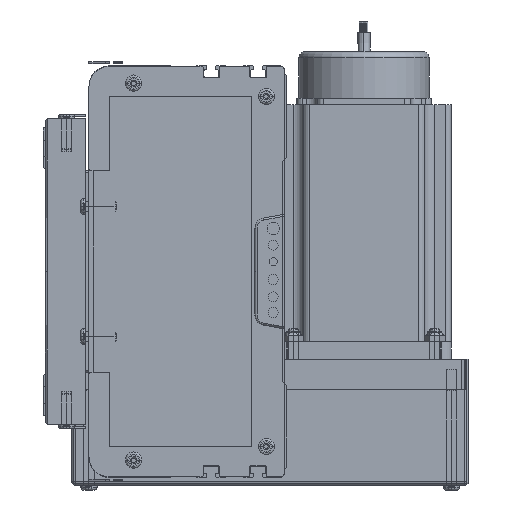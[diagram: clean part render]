
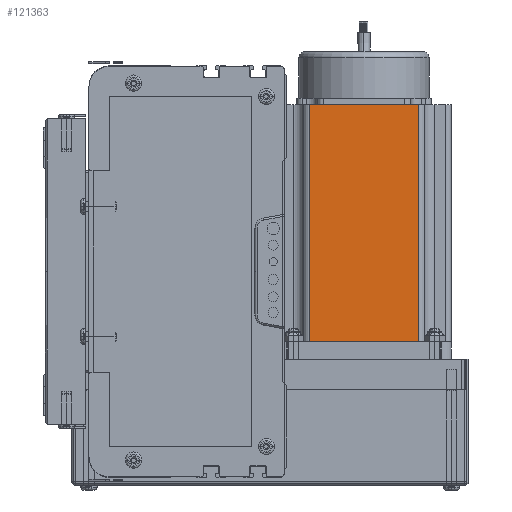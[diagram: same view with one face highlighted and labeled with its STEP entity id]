
A CAD part, left-side view. The second image highlights one B-rep face of the part: STEP entity #121363.
In plain terms, the highlighted planar face has unit normal (-1, 0, 0) as drawn and (0, -1, 0) by its records, which use the part's own axes.
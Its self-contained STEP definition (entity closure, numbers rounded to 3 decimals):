
#17946 = ORIENTED_EDGE ( 'NONE', *, *, #121400, .T. ) ;
#18046 = EDGE_LOOP ( 'NONE', ( #17946, #121318, #18131, #121348 ) ) ;
#18131 = ORIENTED_EDGE ( 'NONE', *, *, #18472, .F. ) ;
#18139 = VERTEX_POINT ( 'NONE', #30486 ) ;
#18472 = EDGE_CURVE ( 'NONE', #18519, #18139, #31061, .T. ) ;
#18519 = VERTEX_POINT ( 'NONE', #31064 ) ;
#18593 = EDGE_CURVE ( 'NONE', #18519, #121283, #31257, .T. ) ;
#30486 = CARTESIAN_POINT ( 'NONE',  ( 69.74, 0., 116.5 ) ) ;
#31060 = CARTESIAN_POINT ( 'NONE',  ( 0., 0., 116.5 ) ) ;
#31061 = LINE ( 'NONE', #31060, #31169 ) ;
#31064 = CARTESIAN_POINT ( 'NONE',  ( 16.16, 0., 116.5 ) ) ;
#31168 = DIRECTION ( 'NONE',  ( 1., 0., 0. ) ) ;
#31169 = VECTOR ( 'NONE', #31168, 1000. ) ;
#31256 = CARTESIAN_POINT ( 'NONE',  ( 16.16, 0., 116.5 ) ) ;
#31257 = LINE ( 'NONE', #31256, #31367 ) ;
#31366 = DIRECTION ( 'NONE',  ( 0., 0., -1. ) ) ;
#31367 = VECTOR ( 'NONE', #31366, 1000. ) ;
#101874 = CARTESIAN_POINT ( 'NONE',  ( 69.74, 0., 116.5 ) ) ;
#101898 = CARTESIAN_POINT ( 'NONE',  ( 16.16, 0., 0. ) ) ;
#101956 = DIRECTION ( 'NONE',  ( 0., 0., 1. ) ) ;
#101957 = VECTOR ( 'NONE', #101956, 1000. ) ;
#101969 = LINE ( 'NONE', #101874, #101957 ) ;
#101972 = CARTESIAN_POINT ( 'NONE',  ( 69.74, 0., 0. ) ) ;
#102167 = PLANE ( 'NONE',  #102231 ) ;
#102168 = CARTESIAN_POINT ( 'NONE',  ( 0., 0., 116.5 ) ) ;
#102226 = DIRECTION ( 'NONE',  ( 0., 0., 1. ) ) ;
#102227 = DIRECTION ( 'NONE',  ( 0., 1., 0. ) ) ;
#102231 = AXIS2_PLACEMENT_3D ( 'NONE', #102168, #102227, #102226 ) ;
#102239 = FACE_OUTER_BOUND ( 'NONE', #18046, .T. ) ;
#102406 = DIRECTION ( 'NONE',  ( 1., 0., 0. ) ) ;
#102407 = VECTOR ( 'NONE', #102406, 1000. ) ;
#102408 = CARTESIAN_POINT ( 'NONE',  ( 0., 0., 0. ) ) ;
#102409 = LINE ( 'NONE', #102408, #102407 ) ;
#121283 = VERTEX_POINT ( 'NONE', #101898 ) ;
#121294 = VERTEX_POINT ( 'NONE', #101972 ) ;
#121295 = EDGE_CURVE ( 'NONE', #121294, #18139, #101969, .T. ) ;
#121318 = ORIENTED_EDGE ( 'NONE', *, *, #121295, .T. ) ;
#121348 = ORIENTED_EDGE ( 'NONE', *, *, #18593, .T. ) ;
#121363 = ADVANCED_FACE ( 'NONE', ( #102239 ), #102167, .F. ) ;
#121400 = EDGE_CURVE ( 'NONE', #121283, #121294, #102409, .T. ) ;
